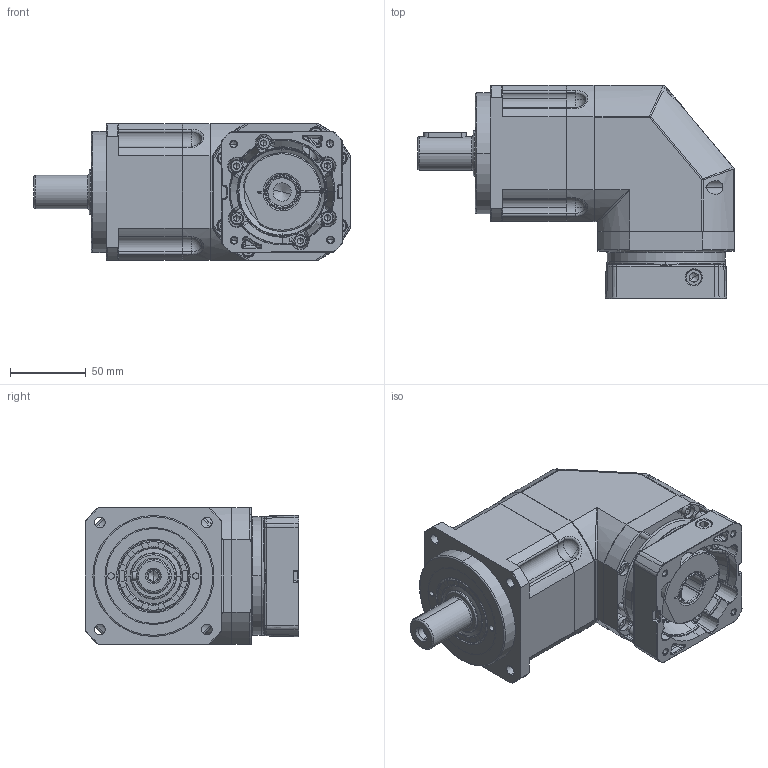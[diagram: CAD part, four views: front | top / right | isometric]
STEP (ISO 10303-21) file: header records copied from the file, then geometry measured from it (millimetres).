
FILE_DESCRIPTION (( 'STEP AP214' ), '1' );
FILE_NAME ('FABR090D-L1-19-70-90-M5-45.STEP', '2021-04-26T03:24:11', ( '微软用户' ), ( '微软中国' ), 'SwSTEP 2.0', 'SolidWorks 2014', '' );
FILE_SCHEMA (( 'AUTOMOTIVE_DESIGN' ));
Length unit declared in the file: millimetre
Products named in the file (45): hexagon socket head cap screws gb(GB_FASTENER_SCREWS_HSHCS M5X16-N); 怀堤傷褲极PAR090D; 珨撰眻褒眊极PAR090D; 输入轴 PAR090D(11)-19; 输出内齿圈壳体PAR090D-Z108_3; 怀堤俴陎殤PAR090-5D_3; 隅弇覃淕杶PAR090D_3; 蚐猾30476_3; A倰す瑩 6-28_10; 输入端壳体PAR090D; 输入法兰PAR090-70_3; 输入轴锁紧环 23-52-14_3; hexagon socket head cap screws gb_GB_FASTENER_SCREWS_HSHCS M6X16-N; hex socket set screws with cone point gb_GB_FASTENER_SCREWS_HSCP M12X10-N_3; hexagon socket head cap screws gb_GB_FASTENER_SCREWS_HSHCS M5X25-N; FABR090D-L1-19-70-90-M5-45
Assembly tree (29 placements, depth 2):
  hexagon socket head cap screws gb(GB_FASTENER_SCREWS_HSHCS M5X16-N)
  hexagon socket head cap screws gb(GB_FASTENER_SCREWS_HSHCS M5X16-N)
  FABR090D-L1-19-70-90-M5-45
    怀堤傷褲极PAR090D
    珨撰眻褒眊极PAR090D
    输入轴 PAR090D(11)-19
    输出内齿圈壳体PAR090D-Z108_3
    怀堤俴陎殤PAR090-5D_3
    隅弇覃淕杶PAR090D_3
    蚐猾30476_3
    A倰す瑩 6-28_10
    输入端壳体PAR090D
    输入法兰PAR090-70_3
    输入轴锁紧环 23-52-14_3
    hexagon socket head cap screws gb_GB_FASTENER_SCREWS_HSHCS M6X16-N
    hex socket set screws with cone point gb_GB_FASTENER_SCREWS_HSCP M12X10-N_3
    hexagon socket head cap screws gb_GB_FASTENER_SCREWS_HSHCS M5X25-N  x10
    hexagon socket head cap screws gb(GB_FASTENER_SCREWS_HSHCS M5X16-N)  x6
  怀堤傷褲极PAR090D
  珨撰眻褒眊极PAR090D
Bounding box: 209 x 141 x 90 mm (x, y, z)
Volume: 1427534.9 mm3; surface area: 202094.4 mm2
Topology: 29 solids, 29 shells, 1265 faces, 3116 edges, 1936 vertices
Faces by surface type: plane 476, cylinder 322, cone 226, bspline 166, torus 67, sphere 8
Entity records: 39448 total; most frequent: CARTESIAN_POINT 17524, ORIENTED_EDGE 4548, DIRECTION 4155, EDGE_CURVE 2274, AXIS2_PLACEMENT_3D 1666, VERTEX_POINT 1446, EDGE_LOOP 1014, FACE_OUTER_BOUND 915
